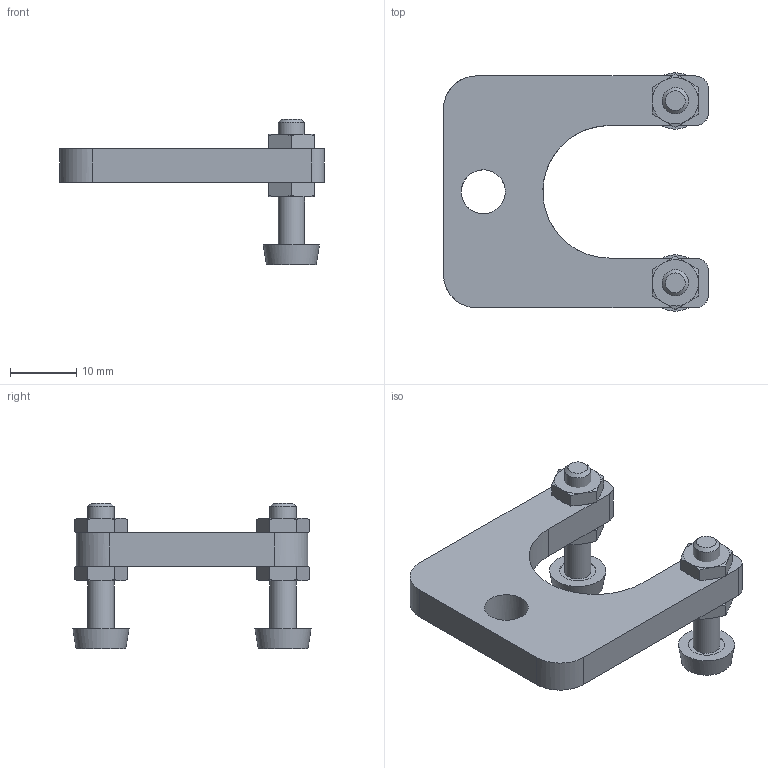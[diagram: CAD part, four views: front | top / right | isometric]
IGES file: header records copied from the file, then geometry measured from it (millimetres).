
Global section: file name: 94.50; native system: Autodesk Inventor 2016; preprocessor: unknown; author: APto; date: 20160830.143924; units: millimetre
Bounding box: 40 x 35.98 x 22 mm (x, y, z)
Volume: 5453.3 mm3; surface area: 4432.2 mm2
Topology: 9 solids, 9 shells, 125 faces, 282 edges, 179 vertices
Faces by surface type: bspline 125
